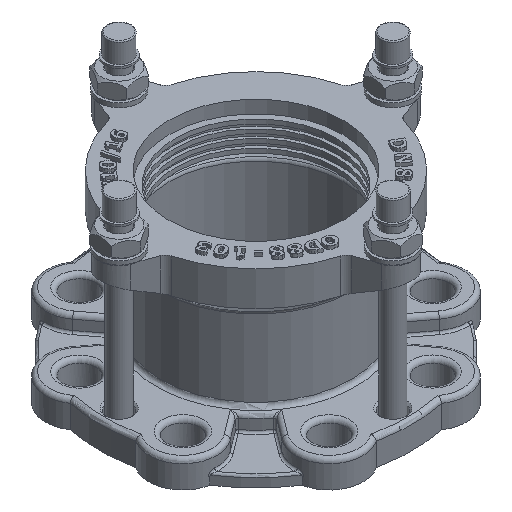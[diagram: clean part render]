
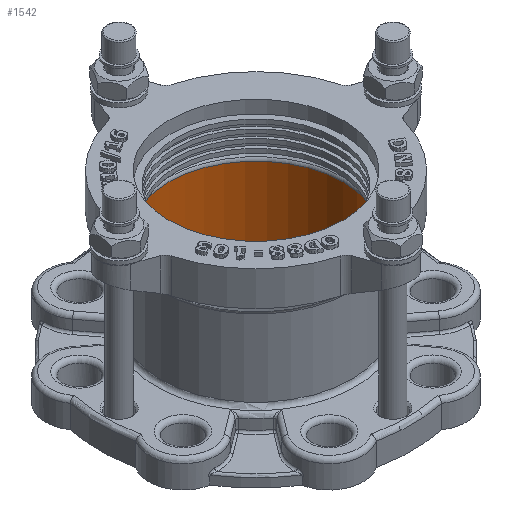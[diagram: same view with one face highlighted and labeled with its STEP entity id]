
A CAD part, isometric view. The second image highlights one B-rep face of the part: STEP entity #1542.
In plain terms, the highlighted cylindrical face has radius 51.5 mm (diameter 103 mm), a full revolution.
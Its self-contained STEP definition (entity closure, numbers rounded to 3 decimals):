
#1542=ADVANCED_FACE('',(#10456,#10458),#10460,.F.);
#10456=FACE_OUTER_BOUND('',#10457,.T.);
#10457=EDGE_LOOP('',(#16054));
#10458=FACE_OUTER_BOUND('',#10459,.T.);
#10459=EDGE_LOOP('',(#16055));
#10460=CYLINDRICAL_SURFACE('',#10461,51.5);
#10461=AXIS2_PLACEMENT_3D('',#10462,#10463,#10464);
#10462=CARTESIAN_POINT('',(0.,0.,3.));
#10463=DIRECTION('',(0.,0.,1.));
#10464=DIRECTION('',(-1.,0.,0.));
#16054=ORIENTED_EDGE('',*,*,#20964,.F.);
#16055=ORIENTED_EDGE('',*,*,#20963,.T.);
#20963=EDGE_CURVE('',#23694,#23694,#23695,.F.);
#20964=EDGE_CURVE('',#23696,#23696,#23697,.T.);
#23694=VERTEX_POINT('',#33524);
#23695=CIRCLE('',#33525,51.5);
#23696=VERTEX_POINT('',#33529);
#23697=CIRCLE('',#33530,51.5);
#33524=CARTESIAN_POINT('',(0.,51.5,5.5));
#33525=AXIS2_PLACEMENT_3D('',#33526,#33527,#33528);
#33526=CARTESIAN_POINT('',(0.,0.,5.5));
#33527=DIRECTION('',(0.,0.,1.));
#33528=DIRECTION('',(0.,1.,0.));
#33529=CARTESIAN_POINT('',(0.,51.5,68.75));
#33530=AXIS2_PLACEMENT_3D('',#33531,#33532,#33533);
#33531=CARTESIAN_POINT('',(0.,0.,68.75));
#33532=DIRECTION('',(0.,0.,-1.));
#33533=DIRECTION('',(0.,1.,0.));
